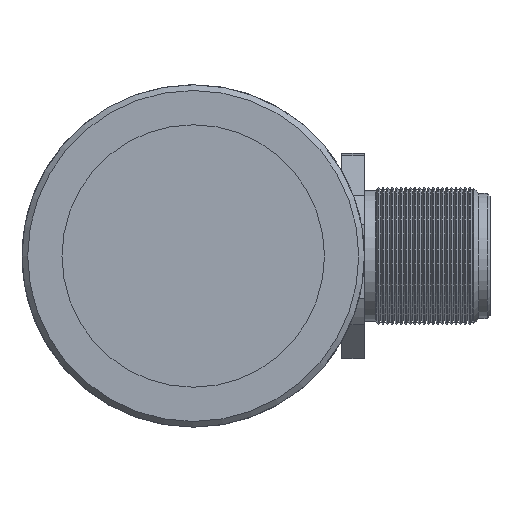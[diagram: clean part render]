
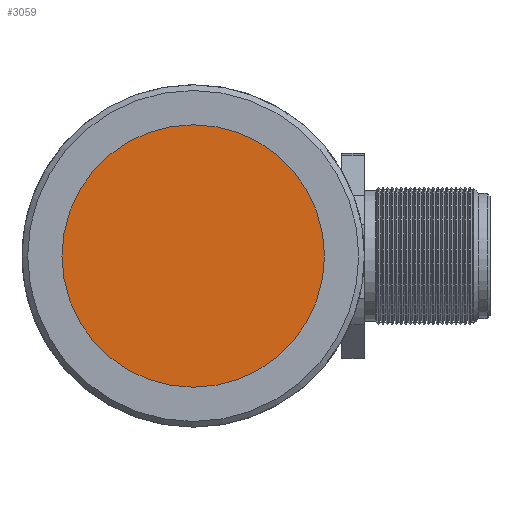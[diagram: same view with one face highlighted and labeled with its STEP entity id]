
A CAD part, left-side view. The second image highlights one B-rep face of the part: STEP entity #3059.
In plain terms, the highlighted planar face has unit normal (-1, 0, 0).
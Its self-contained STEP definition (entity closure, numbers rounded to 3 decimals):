
#462=CIRCLE('',#3302,11.5);
#736=VERTEX_POINT('',#4654);
#1303=EDGE_CURVE('',#736,#736,#462,.T.);
#1753=ORIENTED_EDGE('',*,*,#1303,.T.);
#2403=EDGE_LOOP('',(#1753));
#2735=FACE_BOUND('',#2403,.T.);
#3059=ADVANCED_FACE('',(#2735),#5413,.F.);
#3302=AXIS2_PLACEMENT_3D('',#4653,#3722,#3723);
#3303=AXIS2_PLACEMENT_3D('',#4655,#3724,$);
#3722=DIRECTION('',(-1.,0.,0.));
#3723=DIRECTION('',(0.,0.,-11.5));
#3724=DIRECTION('',(1.,0.,0.));
#4653=CARTESIAN_POINT('',(-34.,0.,0.));
#4654=CARTESIAN_POINT('',(-34.,0.,-11.5));
#4655=CARTESIAN_POINT('',(-34.,0.,0.));
#5413=PLANE('',#3303);
